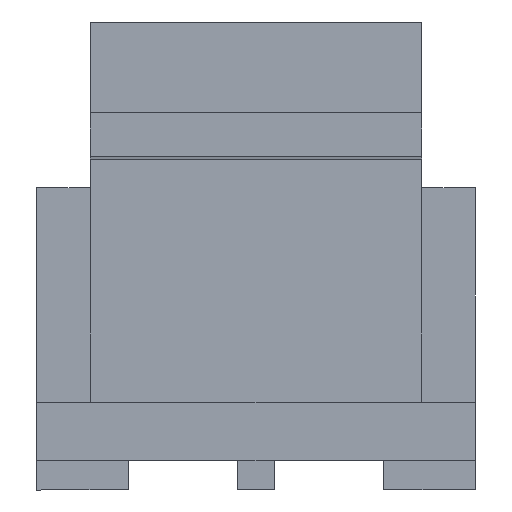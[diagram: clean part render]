
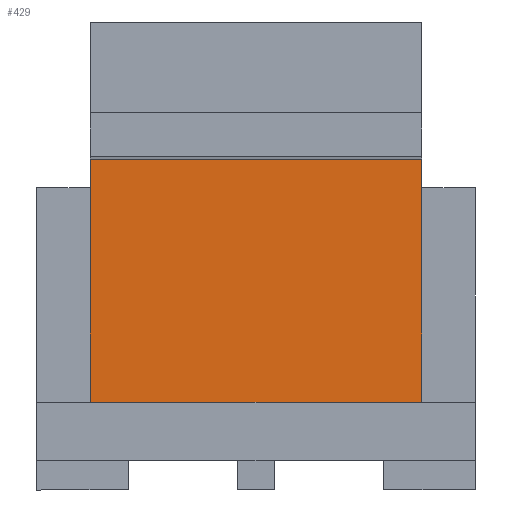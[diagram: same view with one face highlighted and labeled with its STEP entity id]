
A CAD part, front view. The second image highlights one B-rep face of the part: STEP entity #429.
In plain terms, the highlighted planar face has unit normal (0, -1, 0).
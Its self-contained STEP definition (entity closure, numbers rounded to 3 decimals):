
#429 = ADVANCED_FACE ( 'NONE', ( #1798 ), #2793, .F. ) ;
#430 = EDGE_LOOP ( 'NONE', ( #436, #440, #443, #446 ) ) ;
#436 = ORIENTED_EDGE ( 'NONE', *, *, #437, .T. ) ;
#437 = EDGE_CURVE ( 'NONE', #438, #439, #2842, .T. ) ;
#438 = VERTEX_POINT ( 'NONE', #2700 ) ;
#439 = VERTEX_POINT ( 'NONE', #2699 ) ;
#440 = ORIENTED_EDGE ( 'NONE', *, *, #441, .F. ) ;
#441 = EDGE_CURVE ( 'NONE', #442, #439, #2698, .T. ) ;
#442 = VERTEX_POINT ( 'NONE', #2879 ) ;
#443 = ORIENTED_EDGE ( 'NONE', *, *, #444, .F. ) ;
#444 = EDGE_CURVE ( 'NONE', #445, #442, #2878, .T. ) ;
#445 = VERTEX_POINT ( 'NONE', #2874 ) ;
#446 = ORIENTED_EDGE ( 'NONE', *, *, #447, .T. ) ;
#447 = EDGE_CURVE ( 'NONE', #445, #438, #2836, .T. ) ;
#1798 = FACE_OUTER_BOUND ( 'NONE', #430, .T. ) ;
#2696 = VECTOR ( 'NONE', #2880, 1000. ) ;
#2697 = CARTESIAN_POINT ( 'NONE',  ( -2.25, 0.77, 1.441 ) ) ;
#2698 = LINE ( 'NONE', #2697, #2696 ) ;
#2699 = CARTESIAN_POINT ( 'NONE',  ( 1.7, 0.77, 1.441 ) ) ;
#2700 = CARTESIAN_POINT ( 'NONE',  ( 1.7, 0.77, -1.05 ) ) ;
#2701 = DIRECTION ( 'NONE',  ( 0., 0., 1. ) ) ;
#2702 = VECTOR ( 'NONE', #2701, 1000. ) ;
#2717 = DIRECTION ( 'NONE',  ( 1., 0., 0. ) ) ;
#2718 = DIRECTION ( 'NONE',  ( 0., 1., 0. ) ) ;
#2719 = CARTESIAN_POINT ( 'NONE',  ( -2.25, 0.77, 2.85 ) ) ;
#2720 = AXIS2_PLACEMENT_3D ( 'NONE', #2719, #2718, #2717 ) ;
#2793 = PLANE ( 'NONE',  #2720 ) ;
#2833 = DIRECTION ( 'NONE',  ( 1., 0., 0. ) ) ;
#2834 = VECTOR ( 'NONE', #2833, 1000. ) ;
#2835 = CARTESIAN_POINT ( 'NONE',  ( -2.25, 0.77, -1.05 ) ) ;
#2836 = LINE ( 'NONE', #2835, #2834 ) ;
#2841 = CARTESIAN_POINT ( 'NONE',  ( 1.7, 0.77, 2.85 ) ) ;
#2842 = LINE ( 'NONE', #2841, #2702 ) ;
#2874 = CARTESIAN_POINT ( 'NONE',  ( -1.7, 0.77, -1.05 ) ) ;
#2875 = DIRECTION ( 'NONE',  ( 0., 0., 1. ) ) ;
#2876 = VECTOR ( 'NONE', #2875, 1000. ) ;
#2877 = CARTESIAN_POINT ( 'NONE',  ( -1.7, 0.77, 2.85 ) ) ;
#2878 = LINE ( 'NONE', #2877, #2876 ) ;
#2879 = CARTESIAN_POINT ( 'NONE',  ( -1.7, 0.77, 1.441 ) ) ;
#2880 = DIRECTION ( 'NONE',  ( 1., 0., 0. ) ) ;
